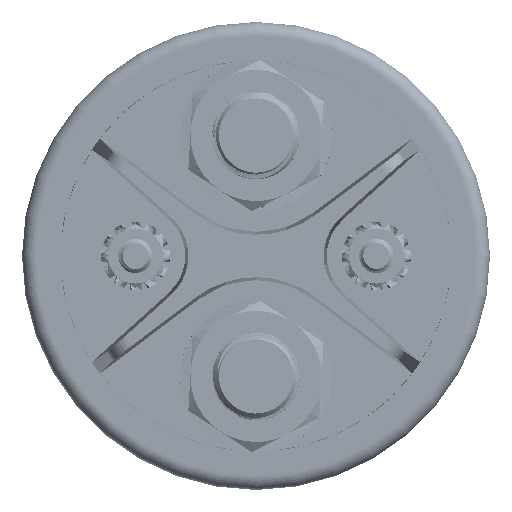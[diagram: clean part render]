
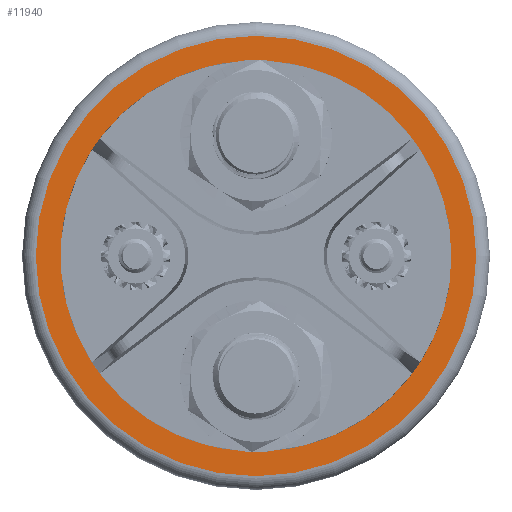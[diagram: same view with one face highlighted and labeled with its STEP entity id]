
A CAD part, front view. The second image highlights one B-rep face of the part: STEP entity #11940.
In plain terms, the highlighted planar face has unit normal (0, -1, 0).
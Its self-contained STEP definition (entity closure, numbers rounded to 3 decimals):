
#249=FACE_BOUND('',#3398,.T.);
#2494=PLANE('',#12926);
#2701=FACE_OUTER_BOUND('',#3397,.T.);
#3397=EDGE_LOOP('',(#8306,#8307));
#3398=EDGE_LOOP('',(#8308));
#4105=CIRCLE('',#12907,28.4);
#4112=CIRCLE('',#12918,32.);
#4116=CIRCLE('',#12922,32.);
#4960=VERTEX_POINT('',#16582);
#4966=VERTEX_POINT('',#16601);
#4967=VERTEX_POINT('',#16602);
#6256=EDGE_CURVE('',#4960,#4960,#4105,.T.);
#6264=EDGE_CURVE('',#4966,#4967,#4112,.T.);
#6268=EDGE_CURVE('',#4967,#4966,#4116,.T.);
#8306=ORIENTED_EDGE('',*,*,#6264,.F.);
#8307=ORIENTED_EDGE('',*,*,#6268,.F.);
#8308=ORIENTED_EDGE('',*,*,#6256,.T.);
#11940=ADVANCED_FACE('',(#2701,#249),#2494,.F.);
#12907=AXIS2_PLACEMENT_3D('',#16584,#13952,#13953);
#12918=AXIS2_PLACEMENT_3D('',#16603,#13975,#13976);
#12922=AXIS2_PLACEMENT_3D('',#16609,#13983,#13984);
#12926=AXIS2_PLACEMENT_3D('',#16616,#13992,#13993);
#13952=DIRECTION('center_axis',(0.,1.,0.));
#13953=DIRECTION('ref_axis',(-1.,0.,0.));
#13975=DIRECTION('center_axis',(0.,1.,0.));
#13976=DIRECTION('ref_axis',(1.,0.,0.));
#13983=DIRECTION('center_axis',(0.,1.,0.));
#13984=DIRECTION('ref_axis',(1.,0.,0.));
#13992=DIRECTION('center_axis',(0.,1.,0.));
#13993=DIRECTION('ref_axis',(0.,0.,1.));
#16582=CARTESIAN_POINT('',(28.4,0.,0.));
#16584=CARTESIAN_POINT('Origin',(0.,0.,0.));
#16601=CARTESIAN_POINT('',(-32.,0.,0.));
#16602=CARTESIAN_POINT('',(0.,0.,32.));
#16603=CARTESIAN_POINT('Origin',(0.,0.,0.));
#16609=CARTESIAN_POINT('Origin',(0.,0.,0.));
#16616=CARTESIAN_POINT('Origin',(0.,0.,0.));
